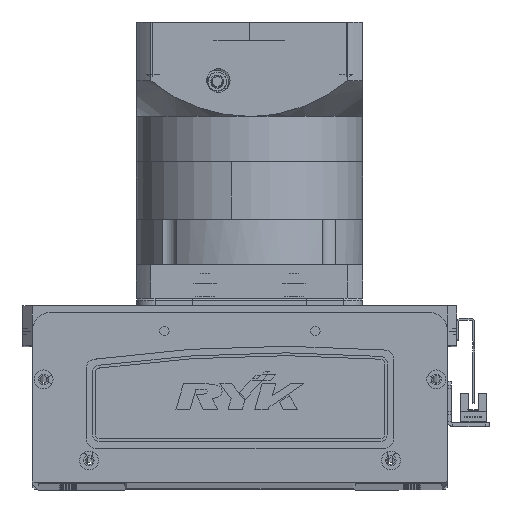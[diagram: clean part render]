
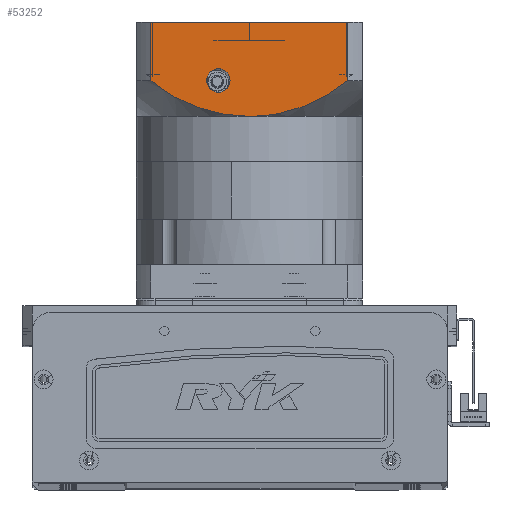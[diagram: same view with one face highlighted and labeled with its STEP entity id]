
A CAD part, top view. The second image highlights one B-rep face of the part: STEP entity #53252.
In plain terms, the highlighted planar face has unit normal (0, 0, 1) as drawn and (0, -1, 0) by its records, which use the part's own axes.
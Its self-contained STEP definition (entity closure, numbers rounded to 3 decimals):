
#20 = CARTESIAN_POINT ( 'NONE',  ( -32.118, -60., -107.084 ) ) ;
#366 = CARTESIAN_POINT ( 'NONE',  ( 52.156, -60., -119.5 ) ) ;
#2152 = VERTEX_POINT ( 'NONE', #9284 ) ;
#4243 = CARTESIAN_POINT ( 'NONE',  ( 9.454, -60., -100.914 ) ) ;
#4465 = CARTESIAN_POINT ( 'NONE',  ( 48.457, -60., -116.522 ) ) ;
#4597 = DIRECTION ( 'NONE',  ( 0., 0., -1. ) ) ;
#4739 = CARTESIAN_POINT ( 'NONE',  ( -11.825, -60., -101.356 ) ) ;
#4964 = CARTESIAN_POINT ( 'NONE',  ( 0., -60., -100.5 ) ) ;
#6025 = VERTEX_POINT ( 'NONE', #17664 ) ;
#6993 = EDGE_CURVE ( 'NONE', #2152, #43260, #49989, .T. ) ;
#7105 = ORIENTED_EDGE ( 'NONE', *, *, #60508, .F. ) ;
#7552 = CARTESIAN_POINT ( 'NONE',  ( -52.156, -60., -119.5 ) ) ;
#9284 = CARTESIAN_POINT ( 'NONE',  ( 16.5, -60., -125.75 ) ) ;
#9360 = VERTEX_POINT ( 'NONE', #7552 ) ;
#9884 = ORIENTED_EDGE ( 'NONE', *, *, #46904, .F. ) ;
#10043 = DIRECTION ( 'NONE',  ( 0., 1., 0. ) ) ;
#10085 = DIRECTION ( 'NONE',  ( 0., 1., 0. ) ) ;
#10120 = CARTESIAN_POINT ( 'NONE',  ( 52.156, -60., -119.5 ) ) ;
#10559 = CARTESIAN_POINT ( 'NONE',  ( 50.338, -60., -117.969 ) ) ;
#10748 = CIRCLE ( 'NONE', #12094, 6.25 ) ;
#12094 = AXIS2_PLACEMENT_3D ( 'NONE', #15029, #10043, #4597 ) ;
#14100 = CARTESIAN_POINT ( 'NONE',  ( 52.156, -60., -150.5 ) ) ;
#14213 = EDGE_CURVE ( 'NONE', #6025, #36261, #60946, .T. ) ;
#15029 = CARTESIAN_POINT ( 'NONE',  ( 16.5, -60., -119.5 ) ) ;
#15108 = CARTESIAN_POINT ( 'NONE',  ( 23.329, -60., -103.886 ) ) ;
#15258 = EDGE_CURVE ( 'NONE', #36261, #46903, #62496, .T. ) ;
#15593 = CARTESIAN_POINT ( 'NONE',  ( -23.319, -60., -103.777 ) ) ;
#16014 = VERTEX_POINT ( 'NONE', #34947 ) ;
#16120 = DIRECTION ( 'NONE',  ( 1., 0., 0. ) ) ;
#17043 = CARTESIAN_POINT ( 'NONE',  ( -60., -60., -150.5 ) ) ;
#17664 = CARTESIAN_POINT ( 'NONE',  ( -52.156, -60., -150.5 ) ) ;
#18042 = VECTOR ( 'NONE', #53790, 1000. ) ;
#18084 = CARTESIAN_POINT ( 'NONE',  ( 16.5, -60., -113.25 ) ) ;
#18830 = B_SPLINE_CURVE_WITH_KNOTS ( 'NONE', 3,
 ( #50684, #55892, #4243, #65405, #66496, #51360, #66947, #15108, #46381, #46796, #30731, #40947, #20324, #51132, #35487, #4465, #10559, #10120 ),
 .UNSPECIFIED., .F., .F.,
 ( 4, 2, 2, 2, 2, 2, 2, 2, 4 ),
 ( 0., 0.014, 0.018, 0.021, 0.028, 0.042, 0.046, 0.05, 0.057 ),
 .UNSPECIFIED. ) ;
#19709 = CARTESIAN_POINT ( 'NONE',  ( -9.477, -60., -101.046 ) ) ;
#20150 = CARTESIAN_POINT ( 'NONE',  ( -39.546, -60., -110.776 ) ) ;
#20324 = CARTESIAN_POINT ( 'NONE',  ( 42.555, -60., -112.543 ) ) ;
#20612 = CARTESIAN_POINT ( 'NONE',  ( -8.294, -60., -100.916 ) ) ;
#22932 = EDGE_LOOP ( 'NONE', ( #9884, #54504, #54236, #34056, #7105 ) ) ;
#25567 = CARTESIAN_POINT ( 'NONE',  ( -44.656, -60., -113.73 ) ) ;
#30572 = CARTESIAN_POINT ( 'NONE',  ( -2.376, -60., -100.5 ) ) ;
#30731 = CARTESIAN_POINT ( 'NONE',  ( 36.444, -60., -108.986 ) ) ;
#34056 = ORIENTED_EDGE ( 'NONE', *, *, #50129, .F. ) ;
#34947 = CARTESIAN_POINT ( 'NONE',  ( 0., -60., -100.5 ) ) ;
#35487 = CARTESIAN_POINT ( 'NONE',  ( 45.542, -60., -114.478 ) ) ;
#36261 = VERTEX_POINT ( 'NONE', #14100 ) ;
#37366 = VECTOR ( 'NONE', #45779, 1000. ) ;
#40549 = CARTESIAN_POINT ( 'NONE',  ( 52.156, -60., -150.5 ) ) ;
#40947 = CARTESIAN_POINT ( 'NONE',  ( 41.545, -60., -111.931 ) ) ;
#41006 = CARTESIAN_POINT ( 'NONE',  ( -4.747, -60., -100.604 ) ) ;
#41218 = CARTESIAN_POINT ( 'NONE',  ( -12.993, -60., -101.537 ) ) ;
#41961 = DIRECTION ( 'NONE',  ( 0., -1., 0. ) ) ;
#42020 = CARTESIAN_POINT ( 'NONE',  ( -52.156, -60., -97.5 ) ) ;
#42366 = FACE_OUTER_BOUND ( 'NONE', #22932, .T. ) ;
#43260 = VERTEX_POINT ( 'NONE', #18084 ) ;
#45294 = VECTOR ( 'NONE', #57654, 1000. ) ;
#45324 = CARTESIAN_POINT ( 'NONE',  ( -52.156, -60., -119.5 ) ) ;
#45625 = FACE_BOUND ( 'NONE', #58296, .T. ) ;
#45779 = DIRECTION ( 'NONE',  ( 0., 0., 1. ) ) ;
#45994 = CARTESIAN_POINT ( 'NONE',  ( -18.792, -60., -102.562 ) ) ;
#46381 = CARTESIAN_POINT ( 'NONE',  ( 25.577, -60., -104.596 ) ) ;
#46654 = CARTESIAN_POINT ( 'NONE',  ( -29.939, -60., -106.183 ) ) ;
#46796 = CARTESIAN_POINT ( 'NONE',  ( 32.196, -60., -107.007 ) ) ;
#46903 = VERTEX_POINT ( 'NONE', #366 ) ;
#46904 = EDGE_CURVE ( 'NONE', #6025, #9360, #47674, .T. ) ;
#47131 = B_SPLINE_CURVE_WITH_KNOTS ( 'NONE', 3,
 ( #45324, #60486, #25567, #20150, #55953, #66791, #56834, #20, #46654, #15593, #45994, #41218, #4739, #19709, #20612, #41006, #30572, #4964 ),
 .UNSPECIFIED., .F., .F.,
 ( 4, 2, 2, 2, 2, 2, 2, 2, 4 ),
 ( 0., 0.014, 0.018, 0.021, 0.028, 0.042, 0.046, 0.05, 0.057 ),
 .UNSPECIFIED. ) ;
#47674 = LINE ( 'NONE', #42020, #45294 ) ;
#48549 = CARTESIAN_POINT ( 'NONE',  ( -60., -60., -150.5 ) ) ;
#49989 = CIRCLE ( 'NONE', #53770, 6.25 ) ;
#50129 = EDGE_CURVE ( 'NONE', #16014, #46903, #18830, .T. ) ;
#50684 = CARTESIAN_POINT ( 'NONE',  ( 0., -60., -100.5 ) ) ;
#51132 = CARTESIAN_POINT ( 'NONE',  ( 44.553, -60., -113.817 ) ) ;
#51360 = CARTESIAN_POINT ( 'NONE',  ( 18.739, -60., -102.681 ) ) ;
#53192 = EDGE_CURVE ( 'NONE', #43260, #2152, #10748, .T. ) ;
#53252 = ADVANCED_FACE ( 'NONE', ( #42366, #45625 ), #62330, .T. ) ;
#53770 = AXIS2_PLACEMENT_3D ( 'NONE', #62157, #10085, #57182 ) ;
#53790 = DIRECTION ( 'NONE',  ( 1., 0., 0. ) ) ;
#53791 = AXIS2_PLACEMENT_3D ( 'NONE', #17043, #41961, #16120 ) ;
#54236 = ORIENTED_EDGE ( 'NONE', *, *, #15258, .T. ) ;
#54419 = ORIENTED_EDGE ( 'NONE', *, *, #6993, .T. ) ;
#54447 = ORIENTED_EDGE ( 'NONE', *, *, #53192, .T. ) ;
#54504 = ORIENTED_EDGE ( 'NONE', *, *, #14213, .T. ) ;
#55892 = CARTESIAN_POINT ( 'NONE',  ( 4.753, -60., -100.5 ) ) ;
#55953 = CARTESIAN_POINT ( 'NONE',  ( -38.51, -60., -110.207 ) ) ;
#56834 = CARTESIAN_POINT ( 'NONE',  ( -35.342, -60., -108.587 ) ) ;
#57182 = DIRECTION ( 'NONE',  ( 0., 0., -1. ) ) ;
#57654 = DIRECTION ( 'NONE',  ( 0., 0., 1. ) ) ;
#58296 = EDGE_LOOP ( 'NONE', ( #54419, #54447 ) ) ;
#60486 = CARTESIAN_POINT ( 'NONE',  ( -48.52, -60., -116.438 ) ) ;
#60508 = EDGE_CURVE ( 'NONE', #9360, #16014, #47131, .T. ) ;
#60946 = LINE ( 'NONE', #48549, #18042 ) ;
#62157 = CARTESIAN_POINT ( 'NONE',  ( 16.5, -60., -119.5 ) ) ;
#62330 = PLANE ( 'NONE',  #53791 ) ;
#62496 = LINE ( 'NONE', #40549, #37366 ) ;
#65405 = CARTESIAN_POINT ( 'NONE',  ( 15.267, -60., -101.938 ) ) ;
#66496 = CARTESIAN_POINT ( 'NONE',  ( 16.426, -60., -102.169 ) ) ;
#66791 = CARTESIAN_POINT ( 'NONE',  ( -36.409, -60., -109.113 ) ) ;
#66947 = CARTESIAN_POINT ( 'NONE',  ( 19.894, -60., -102.964 ) ) ;
